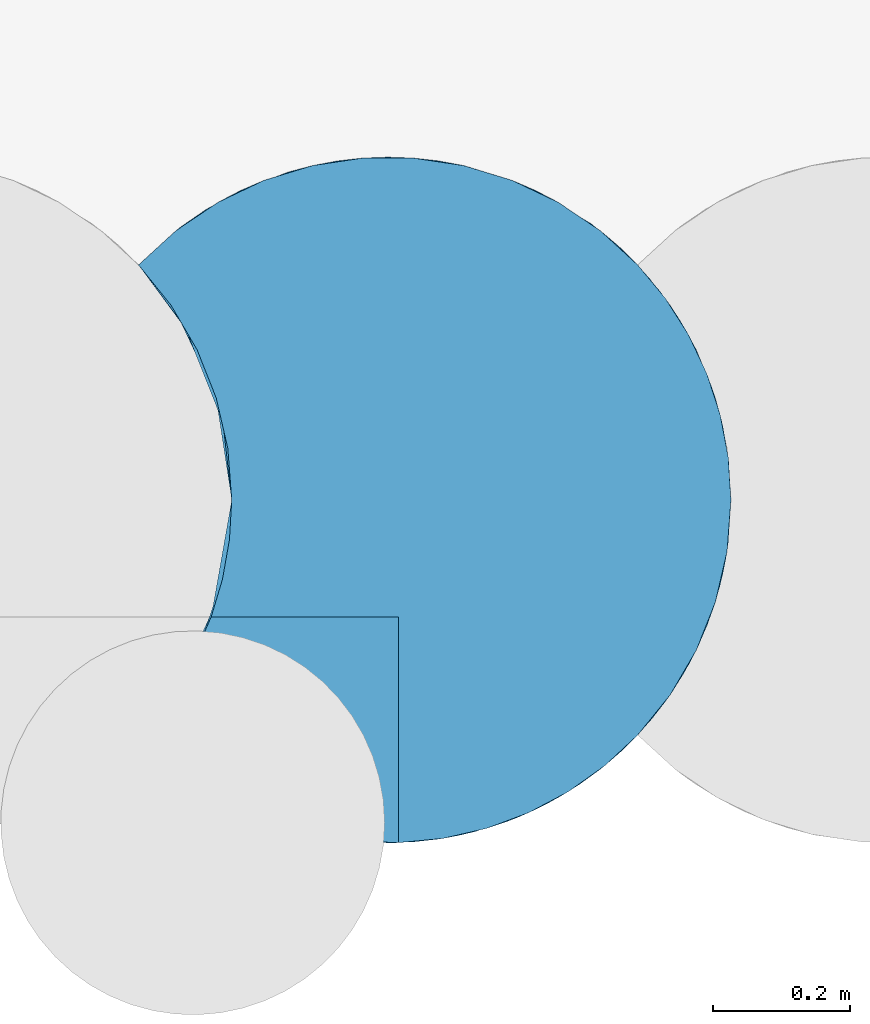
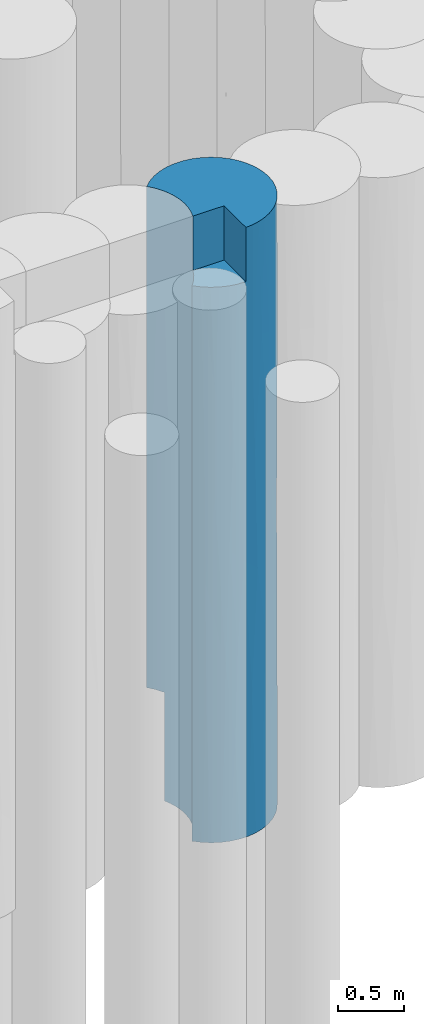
# One storey, part 49 of 104: 1 pile.
"""IFC2X3 building model written with IfcOpenShell, lengths in millimetres."""

import ifcopenshell
import ifcopenshell.guid

model = None  # the IFC model being written
_history = None  # IfcOwnerHistory: only IFC2X3 demands one
_inside = {}  # id of a spatial element -> (the spatial element, [elements in it])
_under = {}  # id of a project, library or spatial element -> (it, [spatial elements below it])
_declared = {}  # id of a project -> (the project, [libraries it declares])
_typed = {}  # id of a type object -> (the type object, [elements of that type])
_made_of = {}  # id of a material, layer set ... -> (it, [elements and type objects made of it])


def new_model(schema):
    """Start an empty IFC model of exactly this schema.

    Asked for "IFC4X3", IfcOpenShell would pick the latest addendum, in which some entities
    have other attributes; the version numbers below select the first issue.
    IFC2X3 requires an IfcOwnerHistory on every rooted entity: one is made here for all.
    """
    global model, _history
    if schema == "IFC4X3":
        model = ifcopenshell.file(schema_version=(4, 3, 0, 0))
    else:
        model = ifcopenshell.file(schema=schema)
    _inside.clear()
    _under.clear()
    _declared.clear()
    _typed.clear()
    _made_of.clear()
    _history = None
    if model.schema == "IFC2X3":
        org = make("IfcOrganization", Name="unknown")
        user = make(
            "IfcPersonAndOrganization",
            ThePerson=make("IfcPerson", FamilyName="unknown"),
            TheOrganization=org,
        )
        app = make(
            "IfcApplication",
            ApplicationDeveloper=org,
            Version="unknown",
            ApplicationFullName="unknown",
            ApplicationIdentifier="unknown",
        )
        _history = make(
            "IfcOwnerHistory",
            OwningUser=user,
            OwningApplication=app,
            ChangeAction="ADDED",
            CreationDate=0,
        )
    return model


def make(cls, **values):
    """One entity of the class cls with the attributes given. An attribute that is None is left unset."""
    return model.create_entity(
        cls, **{name: value for name, value in values.items() if value is not None}
    )


def entity(cls, *values):
    """Any entity or typed value of the class cls, its attributes in the order of the schema. None: left unset."""
    e = model.create_entity(cls)
    for i, value in enumerate(values):
        if value is not None:
            e[i] = value
    return e


def rooted(cls, **values):
    """An entity with a GlobalId (a new one), such as an element, a storey or a relation."""
    return make(cls, GlobalId=ifcopenshell.guid.new(), OwnerHistory=_history, **values)


def si_unit(unit_type, name, prefix=None):
    """IfcSIUnit, for example si_unit("LENGTHUNIT", "METRE", prefix="MILLI")."""
    return make("IfcSIUnit", UnitType=unit_type, Prefix=prefix, Name=name)


def converted_unit(unit_type, name, factor, base, dimensions=None, offset=None):
    """IfcConversionBasedUnit, such as the inch: factor (a typed value) times the base unit."""
    return make(
        "IfcConversionBasedUnit"
        if offset is None
        else "IfcConversionBasedUnitWithOffset",
        ConversionOffset=offset,
        Dimensions=None
        if dimensions is None
        else entity("IfcDimensionalExponents", *dimensions),
        UnitType=unit_type,
        Name=name,
        ConversionFactor=make(
            "IfcMeasureWithUnit", ValueComponent=factor, UnitComponent=base
        ),
    )


def derived_unit(unit_type, elements):
    """IfcDerivedUnit: a product of units, each with its exponent."""
    return make(
        "IfcDerivedUnit",
        Elements=[
            make("IfcDerivedUnitElement", Unit=unit, Exponent=power)
            for unit, power in elements
        ],
        UnitType=unit_type,
    )


def assignment(units):
    """IfcUnitAssignment: the units of a project."""
    return None if units is None else make("IfcUnitAssignment", Units=units)


def point(xyz):
    """IfcCartesianPoint."""
    return None if xyz is None else make("IfcCartesianPoint", Coordinates=xyz)


def direction(xyz):
    """IfcDirection."""
    return None if xyz is None else make("IfcDirection", DirectionRatios=xyz)


def frame(location, z_axis=None, x_axis=None):
    """IfcAxis2Placement3D, a coordinate frame: its origin and axes. An axis left out is left unset."""
    return make(
        "IfcAxis2Placement3D",
        Location=point(location),
        Axis=direction(z_axis),
        RefDirection=direction(x_axis),
    )


def origin():
    """The frame at (0, 0, 0) with its axes left unset."""
    return frame((0.0, 0.0, 0.0))


def place(relative_to, where):
    """IfcLocalPlacement: puts the frame where relative to a parent placement (None: the world)."""
    return make(
        "IfcLocalPlacement", PlacementRelTo=relative_to, RelativePlacement=where
    )


def context(
    kind, dimensions, precision=None, world=None, true_north=None, identifier=None
):
    """IfcGeometricRepresentationContext, for example the 3D "Model" context."""
    return make(
        "IfcGeometricRepresentationContext",
        ContextIdentifier=identifier,
        ContextType=kind,
        CoordinateSpaceDimension=dimensions,
        Precision=precision,
        WorldCoordinateSystem=world,
        TrueNorth=true_north,
    )


def subcontext(parent, identifier, kind, view, scale=None):
    """IfcGeometricRepresentationSubContext, for example "Body" below "Model"."""
    return make(
        "IfcGeometricRepresentationSubContext",
        ContextIdentifier=identifier,
        ContextType=kind,
        ParentContext=parent,
        TargetScale=scale,
        TargetView=view,
    )


def project(units=None, contexts=None):
    """IfcProject with its units and contexts."""
    return rooted(
        "IfcProject",
        Name="project",
        RepresentationContexts=contexts,
        UnitsInContext=assignment(units),
    )


def spatial(cls, under=None, at=None, **own):
    """A site, building, storey or space (cls), placed at a placement, below another one or the project."""
    s = rooted(cls, ObjectPlacement=at, **own)
    if under is not None:
        _under.setdefault(under.id(), (under, []))[1].append(s)
    return s


def faces_of(points, faces, orient=None, outer=None):
    """IfcFace entities. A face is a list of loops; a loop is a list of indices into points, from 0.

    orient and outer hold one flag for each loop. By default every Orientation is true, the
    first loop of a face is its IfcFaceOuterBound and the others are IfcFaceBound.
    """
    made = []
    for i, loops in enumerate(faces):
        bounds = []
        for j, loop in enumerate(loops):
            is_outer = j == 0 if outer is None else outer[i][j]
            bounds.append(
                make(
                    "IfcFaceOuterBound" if is_outer else "IfcFaceBound",
                    Bound=make("IfcPolyLoop", Polygon=[points[k] for k in loop]),
                    Orientation=True if orient is None else orient[i][j],
                )
            )
        made.append(make("IfcFace", Bounds=bounds))
    return made


def faceted_brep(points, faces, orient=None, outer=None, voids=None):
    """IfcFacetedBrep: a solid bounded by flat faces; with voids (closed shells), ...WithVoids."""
    shared = [point(p) for p in points]
    hull = make("IfcClosedShell", CfsFaces=faces_of(shared, faces, orient, outer))
    if voids is None:
        return make("IfcFacetedBrep", Outer=hull)
    return make(
        "IfcFacetedBrepWithVoids",
        Outer=hull,
        Voids=[
            make(cls, CfsFaces=faces_of(shared, fs, o, b)) for cls, fs, o, b in voids
        ],
    )


def shape(context_of_items, identifier, shape_type, items):
    """IfcShapeRepresentation: the items that make up one representation, for example the "Body"."""
    return make(
        "IfcShapeRepresentation",
        ContextOfItems=context_of_items,
        RepresentationIdentifier=identifier,
        RepresentationType=shape_type,
        Items=items,
    )


def source(mapping_origin, context_of_items, identifier, shape_type, items):
    """IfcRepresentationMap: a shape defined once, which mapped items show again and again."""
    return make(
        "IfcRepresentationMap",
        MappingOrigin=mapping_origin,
        MappedRepresentation=shape(context_of_items, identifier, shape_type, items),
    )


def transform(
    local_origin,
    x_axis=None,
    y_axis=None,
    z_axis=None,
    scale=None,
    scale2=None,
    scale3=None,
    uniform=True,
):
    """IfcCartesianTransformationOperator3D, or its non-uniform kind. x_axis, y_axis, z_axis: its Axis1, 2, 3."""
    if uniform:
        return make(
            "IfcCartesianTransformationOperator3D",
            Axis1=direction(x_axis),
            Axis2=direction(y_axis),
            LocalOrigin=point(local_origin),
            Scale=scale,
            Axis3=direction(z_axis),
        )
    return make(
        "IfcCartesianTransformationOperator3DnonUniform",
        Axis1=direction(x_axis),
        Axis2=direction(y_axis),
        LocalOrigin=point(local_origin),
        Scale=scale,
        Axis3=direction(z_axis),
        Scale2=scale2,
        Scale3=scale3,
    )


def mapped(mapping_source, mapping_target):
    """IfcMappedItem: shows the shape of a source again, moved by a transform."""
    return make(
        "IfcMappedItem", MappingSource=mapping_source, MappingTarget=mapping_target
    )


def material(Name=None, Category=None):
    """IfcMaterial."""
    return make("IfcMaterial", Name=Name, Category=Category)


def made_of(thing, what):
    """Note that an element or type object is made of a material, layer set ...; save() writes the relation."""
    if what is not None:
        _made_of.setdefault(what.id(), (what, []))[1].append(thing)
    return thing


def element(
    cls,
    number,
    at=None,
    inside=None,
    cuts=None,
    type_object=None,
    material=None,
    context=None,
    identifier="Body",
    shape_type=None,
    held_by="IfcProductDefinitionShape",
    body=None,
    shapes=None,
    **own,
):
    """One element of the class cls, such as IfcWall. Its Tag is "e" and its number.

    at: its placement. inside: the storey or other place that contains it. cuts: it is an
    opening in that element (IfcRelVoidsElement). A single representation is given by context,
    identifier, shape_type and body (its items); several are given by shapes. held_by: the class
    of the entity that holds the representations. save() writes the other relations.
    """
    e = rooted(cls, Tag="e%d" % number, ObjectPlacement=at, **own)
    if body is not None:
        shapes = [shape(context, identifier, shape_type, body)]
    if shapes is not None:
        e.Representation = make(held_by, Representations=shapes)
    if inside is not None:
        _inside.setdefault(inside.id(), (inside, []))[1].append(e)
    if cuts is not None:
        rooted(
            "IfcRelVoidsElement", RelatingBuildingElement=cuts, RelatedOpeningElement=e
        )
    if type_object is not None:
        _typed.setdefault(type_object.id(), (type_object, []))[1].append(e)
    return made_of(e, material)


def aggregate(whole, parts):
    """IfcRelAggregates: a whole, such as a stair, and the parts it consists of."""
    return rooted("IfcRelAggregates", RelatingObject=whole, RelatedObjects=parts)


def save(model, path):
    """Write the relations noted so far, then the file.

    IfcRelAggregates (storeys below a building ...), IfcRelContainedInSpatialStructure (elements
    in a storey), IfcRelDefinesByType, IfcRelAssociatesMaterial and IfcRelDeclares: one each for
    every whole, place, type object, material and project.
    """
    for whole, parts in _under.values():
        aggregate(whole, parts)
    for where, things in _inside.values():
        rooted(
            "IfcRelContainedInSpatialStructure",
            RelatedElements=things,
            RelatingStructure=where,
        )
    for kind, things in _typed.values():
        rooted("IfcRelDefinesByType", RelatedObjects=things, RelatingType=kind)
    for what, things in _made_of.values():
        rooted("IfcRelAssociatesMaterial", RelatedObjects=things, RelatingMaterial=what)
    for by, libraries in _declared.values():
        rooted("IfcRelDeclares", RelatingContext=by, RelatedDefinitions=libraries)
    model.write(path)


model = new_model("IFC2X3")

# Units and contexts
model_context = context("Model", 3, precision=0.01, world=origin(), true_north=direction((6.12303176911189e-17, 1.0)))
body_context = subcontext(model_context, "Body", "Model", "MODEL_VIEW")
ifc_project = project(units=[si_unit("LENGTHUNIT", "METRE", prefix="MILLI"), si_unit("AREAUNIT", "SQUARE_METRE", prefix="MILLI"), si_unit("VOLUMEUNIT", "CUBIC_METRE"), converted_unit("PLANEANGLEUNIT", "DEGREE", entity("IfcRatioMeasure", 0.0174532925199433), si_unit("PLANEANGLEUNIT", "RADIAN"), dimensions=[0, 0, 0, 0, 0, 0, 0]), si_unit("MASSUNIT", "GRAM", prefix="KILO"), derived_unit("MASSDENSITYUNIT", [(si_unit("MASSUNIT", "GRAM", prefix="KILO"), 1), (si_unit("LENGTHUNIT", "METRE"), -3)]), derived_unit("MOMENTOFINERTIAUNIT", [(si_unit("LENGTHUNIT", "METRE"), 4)]), si_unit("TIMEUNIT", "SECOND"), si_unit("FREQUENCYUNIT", "HERTZ"), si_unit("THERMODYNAMICTEMPERATUREUNIT", "DEGREE_CELSIUS"), derived_unit("THERMALTRANSMITTANCEUNIT", [(si_unit("MASSUNIT", "GRAM", prefix="KILO"), 1), (si_unit("THERMODYNAMICTEMPERATUREUNIT", "KELVIN"), -1), (si_unit("TIMEUNIT", "SECOND"), -3)]), derived_unit("VOLUMETRICFLOWRATEUNIT", [(si_unit("LENGTHUNIT", "METRE"), 3), (si_unit("TIMEUNIT", "SECOND"), -1)]), si_unit("ELECTRICCURRENTUNIT", "AMPERE"), si_unit("ELECTRICVOLTAGEUNIT", "VOLT"), si_unit("POWERUNIT", "WATT"), si_unit("FORCEUNIT", "NEWTON", prefix="KILO"), si_unit("ILLUMINANCEUNIT", "LUX"), si_unit("LUMINOUSFLUXUNIT", "LUMEN"), si_unit("LUMINOUSINTENSITYUNIT", "CANDELA"), derived_unit("USERDEFINED", [(si_unit("MASSUNIT", "GRAM", prefix="KILO"), -1), (si_unit("LENGTHUNIT", "METRE"), -2), (si_unit("TIMEUNIT", "SECOND"), 3), (si_unit("LUMINOUSFLUXUNIT", "LUMEN"), 1)]), derived_unit("LINEARVELOCITYUNIT", [(si_unit("LENGTHUNIT", "METRE"), 1), (si_unit("TIMEUNIT", "SECOND"), -1)]), si_unit("PRESSUREUNIT", "PASCAL"), derived_unit("USERDEFINED", [(si_unit("LENGTHUNIT", "METRE"), -2), (si_unit("MASSUNIT", "GRAM", prefix="KILO"), 1), (si_unit("TIMEUNIT", "SECOND"), -2)]), derived_unit("LINEARFORCEUNIT", [(si_unit("MASSUNIT", "GRAM", prefix="KILO"), 1), (si_unit("LENGTHUNIT", "METRE"), 1), (si_unit("TIMEUNIT", "SECOND"), -2), (si_unit("LENGTHUNIT", "METRE"), -1)]), derived_unit("PLANARFORCEUNIT", [(si_unit("MASSUNIT", "GRAM", prefix="KILO"), 1), (si_unit("LENGTHUNIT", "METRE"), 1), (si_unit("TIMEUNIT", "SECOND"), -2), (si_unit("LENGTHUNIT", "METRE"), -2)])], contexts=[model_context])

# Site, building, storey
site_placement = place(None, origin())
site = spatial("IfcSite", under=ifc_project, at=site_placement, Name="Theater aan de Parade", CompositionType="ELEMENT")
building_placement = place(site_placement, origin())
building = spatial("IfcBuilding", under=site, at=building_placement, Name="Theater aan de Parade", CompositionType="ELEMENT")
storey_placement = place(building_placement, frame((0.0, 0.0, -5520.0)))
storey = spatial("IfcBuildingStorey", under=building, at=storey_placement, Name="-2 kelder", CompositionType="ELEMENT", Elevation=-5520.0)

# Pile
ifc_material = material(Name="00_PBT_MAT_grout")
shared_shape = source(origin(), body_context, "Body", "Brep", [
    faceted_brep([(852.778565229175, 613.849004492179, 0.0), (862.377155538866, 558.003037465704, 0.0), (865.595272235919, 501.365943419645, 0.0), (861.634305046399, 438.554495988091, 0.0), (849.822713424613, 376.771460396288, 0.0), (830.347523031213, 316.960560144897, 0.0), (803.517959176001, 260.07002496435, 0.0), (769.755868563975, 206.995067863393, 0.0), (729.59474986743, 158.577316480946, 0.0), (674.963193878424, 108.56639013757, 0.0), (613.550146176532, 67.1789094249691, 0.0), (546.698111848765, 35.316845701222, 0.0), (475.873547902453, 13.6788491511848, 0.0), (402.62996177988, 2.73939802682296, 0.0), (328.573875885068, 2.73841087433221, 0.0), (255.329632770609, 13.6759919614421, 0.0), (184.50381007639, 35.3124246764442, 0.0), (117.650023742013, 67.1734126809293, 0.0), (56.2348577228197, 108.560477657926, 0.0), (1.5952722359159, 158.577378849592, 0.0), (49.0404771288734, 217.265884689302, 0.0), (87.1123213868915, 282.426631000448, 0.0), (114.943469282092, 352.575154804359, 0.0), (131.899884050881, 426.113363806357, 0.0), (137.595272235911, 501.365943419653, 0.0), (134.377353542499, 558.001300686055, 0.0), (124.780071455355, 613.84248057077, 0.0), (108.920050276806, 668.257985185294, 0.0), (86.991728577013, 720.552678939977, 0.0), (814.991728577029, 720.552678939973, 0.0), (836.91792516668, 668.263986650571, 0.0), (854.020876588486, 608.325884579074, 1094.02741643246), (814.991728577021, 720.552678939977, 1000.0), (841.026602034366, 656.172437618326, 4762.58295011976), (803.517959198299, 742.661861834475, 5620.0), (830.347522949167, 685.77132690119, 5620.0), (865.595272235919, 501.365943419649, 2810.0), (865.595272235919, 501.365943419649, 1561.53772500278), (851.888657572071, 617.636074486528, 2185.76883482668), (703.210170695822, 870.1696586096, 2200.60581933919), (746.362503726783, 825.428152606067, 3310.00690634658), (803.401066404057, 742.873886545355, 2328.06655431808), (841.026601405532, 656.172439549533, 3857.71264231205), (865.595272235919, 501.365943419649, 4215.0), (865.595272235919, 501.36594341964, 4058.46229407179), (865.595272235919, 501.36594341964, 3123.07541185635), (476.571159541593, 988.894765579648, 4283.64346164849), (580.714838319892, 952.723420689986, 4088.45269383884), (439.453512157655, 995.880817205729, 3309.99801466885), (1.5952722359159, 844.154507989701, 5620.0), (56.2348580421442, 894.171409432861, 5620.0), (63.7853417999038, 900.002075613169, 4676.61157762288), (674.970941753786, 894.159394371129, 1000.0), (729.595272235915, 844.154507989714, 1000.0), (769.755868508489, 795.736819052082, 5620.0), (787.472388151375, 769.730805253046, 4395.38615293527), (328.567290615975, 999.992986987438, 1000.0), (291.740779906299, 995.881376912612, 2360.44460435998), (439.453512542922, 995.88081714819, 2129.89388414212), (580.720158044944, 952.720885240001, 2525.44905794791), (613.556610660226, 935.549285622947, 1000.0), (729.584965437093, 844.16545223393, 5620.0), (861.634305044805, 564.177390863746, 5620.0), (150.473767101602, 952.722496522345, 2319.63983707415), (117.637172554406, 935.551135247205, 1000.0), (65.20174308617, 901.070493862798, 1974.73221121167), (841.063509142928, 656.059045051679, 2981.48445914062), (865.595272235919, 501.365943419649, 5620.0), (849.822713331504, 625.960426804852, 5620.0), (790.702617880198, 764.583998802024, 1000.0), (762.16743818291, 805.882802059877, 1000.0), (100.386739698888, 925.234359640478, 3418.67983370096), (1.5952722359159, 844.154507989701, 2561.53489296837), (1.5952722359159, 844.154507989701, 4123.06978593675), (806.389759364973, 737.374884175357, 3307.45861235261), (699.528820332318, 873.506220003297, 4401.38648641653), (546.702158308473, 967.413468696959, 1000.0), (475.874328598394, 989.052861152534, 1000.0), (56.222500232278, 894.161676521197, 1000.0), (674.963193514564, 894.165496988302, 5620.0), (328.123378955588, 999.959823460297, 3417.58259392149), (402.627039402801, 999.99270585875, 1000.0), (613.550145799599, 935.552977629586, 5620.0), (184.49189348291, 967.414831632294, 1000.0), (255.319907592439, 989.053695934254, 1000.0), (219.515588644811, 979.550767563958, 3586.41160869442), (256.001465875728, 989.207308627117, 4554.82452433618), (1.5952722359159, 844.154507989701, 1000.0), (150.486217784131, 952.728430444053, 4517.6592504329), (661.854395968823, 904.144457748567, 3156.01166058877), (117.650024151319, 935.558474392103, 5620.0), (365.601936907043, 1001.36594337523, 4389.6941936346), (546.698111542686, 967.415041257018, 5620.0), (402.629961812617, 999.992488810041, 5620.0), (475.873547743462, 989.053037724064, 5620.0), (328.573876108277, 999.993475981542, 5620.0), (184.503810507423, 967.419462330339, 5620.0), (255.329633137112, 989.055894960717, 5620.0), (86.1751177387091, 86.7282976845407, 1230.86338668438), (853.693471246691, 392.921726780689, 1833.25363264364), (841.026602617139, 346.559451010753, 891.155981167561), (1.5952722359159, 158.577378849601, 998.460514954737), (275.507514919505, 9.5487050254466, 3737.60684658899), (142.255230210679, 54.0190694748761, 4164.53021981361), (142.255230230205, 54.0190694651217, 3155.69943985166), (291.748976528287, 6.84928585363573, 915.785504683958), (111.311826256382, 70.8547018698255, 5120.0), (53.36044766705, 110.841406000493, 5120.0), (439.454566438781, 6.85122709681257, 1343.48681508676), (859.899216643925, 426.108980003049, 5620.0), (852.809719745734, 389.017903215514, 4639.26173858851), (241.099662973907, 17.1130722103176, 5120.0), (374.058026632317, 1.43756676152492, 3728.03804747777), (467.929995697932, 11.9503691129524, 3458.26282760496), (443.472692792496, 7.46807202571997, 4374.41771596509), (509.531445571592, 22.5315482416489, 5620.0), (445.833395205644, 7.84609212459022, 5620.0), (205.272040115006, 27.766469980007, 801.248683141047), (219.515588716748, 23.1811192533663, 1616.3098798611), (79.2525200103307, 91.4783634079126, 2387.30901220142), (556.472528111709, 39.2340648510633, 923.460004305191), (73.9332644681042, 95.2461664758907, 3660.11482969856), (1.5952722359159, 158.577378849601, 3558.460514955), (857.53189368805, 411.932390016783, 3590.76885291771), (1.5952722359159, 158.577378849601, 5120.0), (805.355547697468, 263.435491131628, 833.540365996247), (817.828225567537, 288.092982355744, 1628.23914067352), (1.5952722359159, 158.577378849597, 780.768853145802), (174.307234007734, 39.4039466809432, 5120.0), (380.73714215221, 1.5952722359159, 5120.0), (380.73714215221, 1.5952722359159, 5620.0), (313.348543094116, 4.10315646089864, 1791.6972504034), (540.525241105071, 32.96493360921, 4570.67645082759), (600.137529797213, 59.7893029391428, 3659.57594421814), (628.501072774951, 76.0654143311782, 5620.0), (629.759279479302, 76.8457704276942, 4520.65704873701), (681.741210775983, 114.000811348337, 5620.0), (310.362605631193, 4.42595454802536, 5120.0), (645.023985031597, 86.7340651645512, 1005.3159451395), (570.770706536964, 45.4020839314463, 5620.0), (580.714839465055, 50.0084666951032, 1819.39859265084), (774.199119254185, 213.194299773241, 2004.68247811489), (750.43296541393, 182.148227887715, 1199.36956665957), (683.324115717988, 115.298097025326, 2064.7343446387), (674.554939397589, 108.245193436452, 3068.09537981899), (706.39590962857, 135.504049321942, 4294.15869610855), (1.5952722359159, 158.577378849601, 2777.69077243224), (245.317089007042, 16.0483580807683, 2681.67976362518), (831.190139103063, 319.098502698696, 2724.86915338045), (780.908120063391, 222.950357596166, 3686.73258150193), (830.34979357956, 316.966282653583, 3864.35693264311), (797.301291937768, 249.116240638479, 4639.26237393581), (365.601937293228, 1.3659434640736, 2550.56375964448), (842.941134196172, 352.567663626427, 5620.0), (729.591649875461, 158.573532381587, 5620.0), (595.553299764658, 57.3847438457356, 2733.80206927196), (493.245717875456, 17.9351172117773, 2432.03859867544), (815.107492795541, 282.416717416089, 5620.0), (777.032670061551, 217.254578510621, 5620.0), (750.432965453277, 182.148227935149, 2809.99538967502), (1.5952722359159, 158.577378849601, 1996.92102990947), (858.303067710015, 416.283464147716, 2698.85784330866), (114.943469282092, 650.156732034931, 5620.0), (131.899884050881, 576.618523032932, 5620.0), (137.595272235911, 501.365943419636, 5620.0), (134.222550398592, 443.388822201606, 5620.0), (124.149885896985, 386.193863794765, 5620.0), (107.513167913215, 330.552678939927, 5620.0), (380.73714215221, 330.552678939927, 5620.0), (49.0404771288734, 785.466002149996, 5620.0), (87.1123213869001, 720.305255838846, 5620.0), (80.1120921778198, 268.602406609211, 5120.0), (44.5887880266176, 210.924420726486, 5120.0), (380.73714215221, 330.552678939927, 5120.0), (107.513167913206, 330.552678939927, 5120.0), (137.595272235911, 501.365943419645, 1561.53772533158), (137.595272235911, 501.365943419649, 2810.0), (118.129955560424, 639.519546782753, 2185.76884068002), (124.811099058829, 613.708001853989, 4657.58649590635), (137.595272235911, 501.365943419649, 4215.0), (125.973811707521, 608.540577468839, 1095.37767137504), (69.3075384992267, 753.604955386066, 4657.58649237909), (102.353272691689, 685.756835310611, 3905.98762480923), (57.7018130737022, 772.494131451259, 3773.13755671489), (86.991728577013, 720.552678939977, 1000.0), (129.79994300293, 589.312302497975, 3749.95709791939), (48.9622639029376, 785.579240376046, 1000.0), (114.521440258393, 651.503980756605, 3074.4744607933), (73.2384738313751, 746.753394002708, 2499.01518659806), (137.595272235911, 501.36594341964, 4058.46229404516), (125.144374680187, 390.479187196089, 2648.70045516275), (94.8629582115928, 299.112974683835, 3193.67103511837), (126.158348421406, 395.035700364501, 3687.84265532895), (60.1293406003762, 234.036631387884, 1836.98523631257), (65.6483038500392, 242.96586190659, 948.913262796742), (130.287474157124, 416.193212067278, 1847.3643039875), (94.8629582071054, 299.112974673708, 4182.01427536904), (102.353273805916, 316.975054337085, 1582.93816074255), (92.4691750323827, 293.785278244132, 2372.54038835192), (128.564853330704, 406.767473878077, 1015.22177140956)], [[[0, 1, 2, 3, 4, 5, 6, 7, 8, 9, 10, 11, 12, 13, 14, 15, 16, 17, 18, 19, 20, 21, 22, 23, 24, 25, 26, 27, 28, 29, 30]], [[31, 30, 32]], [[33, 34, 35]], [[36, 37, 38]], [[39, 40, 41]], [[41, 38, 32]], [[42, 33, 43, 44, 45, 36]], [[46, 47, 48]], [[49, 50, 51]], [[52, 39, 53]], [[54, 34, 55]], [[56, 57, 58]], [[59, 39, 60]], [[48, 47, 59]], [[30, 29, 32]], [[38, 37, 31]], [[54, 55, 61]], [[43, 33, 62]], [[63, 64, 65]], [[66, 36, 38]], [[43, 62, 67]], [[2, 1, 31]], [[68, 33, 35]], [[1, 0, 31]], [[33, 55, 34]], [[69, 70, 41]], [[53, 39, 70]], [[70, 39, 41]], [[71, 72, 73]], [[74, 55, 42]], [[55, 75, 61]], [[76, 77, 58]], [[69, 41, 32]], [[65, 64, 78]], [[75, 79, 61]], [[80, 58, 57]], [[58, 77, 81]], [[40, 74, 41]], [[59, 76, 58]], [[75, 82, 79]], [[83, 63, 84]], [[55, 40, 75]], [[57, 84, 63]], [[80, 85, 86]], [[63, 83, 64]], [[38, 31, 32]], [[63, 85, 57]], [[87, 72, 65]], [[88, 85, 71]], [[39, 89, 40]], [[57, 56, 84]], [[90, 88, 51]], [[89, 39, 59]], [[91, 46, 48]], [[82, 47, 92]], [[47, 46, 92]], [[58, 81, 56]], [[85, 88, 86]], [[93, 94, 46]], [[80, 91, 48]], [[71, 85, 63]], [[93, 91, 95]], [[96, 88, 90]], [[86, 95, 91]], [[55, 33, 42]], [[33, 68, 62]], [[86, 91, 80]], [[90, 51, 50]], [[97, 86, 96]], [[59, 58, 48]], [[71, 63, 65]], [[60, 76, 59]], [[51, 71, 73]], [[60, 39, 52]], [[41, 74, 66]], [[89, 75, 40]], [[82, 75, 47]], [[96, 86, 88]], [[95, 86, 97]], [[31, 37, 2]], [[31, 0, 30]], [[59, 47, 89]], [[75, 89, 47]], [[93, 46, 91]], [[92, 46, 94]], [[58, 80, 48]], [[57, 85, 80]], [[55, 74, 40]], [[66, 74, 42]], [[36, 66, 42]], [[41, 66, 38]], [[87, 65, 78]], [[71, 65, 72]], [[71, 51, 88]], [[49, 51, 73]], [[18, 17, 98]], [[99, 100, 37]], [[101, 18, 98]], [[102, 103, 104]], [[14, 105, 15]], [[103, 106, 107]], [[108, 105, 13]], [[67, 109, 110]], [[102, 111, 103]], [[112, 113, 114]], [[114, 115, 116]], [[117, 105, 118]], [[117, 15, 105]], [[118, 104, 119]], [[3, 100, 4]], [[10, 120, 11]], [[108, 13, 12]], [[121, 107, 122]], [[123, 45, 44]], [[104, 103, 121]], [[122, 107, 124]], [[125, 100, 126]], [[18, 101, 127, 19]], [[128, 106, 103]], [[129, 116, 130]], [[114, 116, 129]], [[3, 2, 37]], [[105, 131, 118]], [[132, 113, 133]], [[134, 135, 136]], [[128, 103, 111]], [[112, 137, 102]], [[10, 138, 120]], [[132, 139, 115]], [[140, 120, 138]], [[126, 141, 142]], [[138, 8, 142]], [[120, 12, 11]], [[125, 7, 6]], [[138, 143, 140]], [[100, 3, 37]], [[144, 145, 133]], [[17, 117, 98]], [[119, 121, 146]], [[131, 147, 118]], [[99, 148, 126]], [[125, 5, 100]], [[149, 150, 151]], [[113, 112, 152]], [[110, 109, 153]], [[136, 145, 154]], [[155, 143, 144]], [[145, 135, 133]], [[139, 132, 135]], [[126, 100, 99]], [[100, 5, 4]], [[133, 135, 132]], [[102, 137, 111]], [[113, 156, 155]], [[145, 151, 154]], [[110, 151, 150]], [[8, 7, 142]], [[152, 147, 131]], [[117, 17, 16]], [[151, 157, 158]], [[159, 141, 148]], [[157, 151, 153]], [[10, 9, 138]], [[160, 98, 119]], [[156, 140, 155]], [[151, 110, 153]], [[125, 6, 5]], [[8, 138, 9]], [[142, 141, 143]], [[154, 151, 158]], [[149, 145, 159]], [[123, 110, 150]], [[110, 44, 43, 67]], [[13, 105, 14]], [[131, 108, 152]], [[113, 132, 114]], [[152, 108, 156]], [[161, 37, 36, 45]], [[148, 99, 161]], [[123, 161, 45]], [[148, 150, 149]], [[142, 143, 138]], [[144, 143, 159]], [[110, 123, 44]], [[148, 123, 150]], [[145, 149, 151]], [[148, 149, 159]], [[148, 161, 123]], [[37, 161, 99]], [[108, 131, 105]], [[147, 152, 102]], [[102, 104, 147]], [[104, 118, 147]], [[126, 142, 125]], [[7, 125, 142]], [[107, 121, 103]], [[121, 119, 104]], [[146, 160, 119]], [[121, 122, 146]], [[118, 119, 98]], [[145, 144, 159]], [[155, 144, 133]], [[113, 155, 133]], [[143, 155, 140]], [[152, 156, 113]], [[108, 140, 156]], [[140, 108, 120]], [[12, 120, 108]], [[98, 117, 118]], [[15, 117, 16]], [[136, 135, 145]], [[139, 135, 134]], [[148, 141, 126]], [[143, 141, 159]], [[98, 160, 101]], [[114, 132, 115]], [[129, 137, 112]], [[129, 112, 114]], [[152, 112, 102]], [[162, 163, 164, 165, 166, 167, 168, 130, 116, 115, 139, 134, 136, 154, 158, 157, 153, 109, 67, 62, 68, 35, 34, 54, 61, 79, 82, 92, 94, 93, 95, 97, 96, 90, 50, 49, 169, 170]], [[171, 172, 124, 107, 106, 128, 111, 137, 129, 173, 174]], [[174, 173, 168, 167]], [[129, 130, 168, 173]], [[175, 176, 177]], [[178, 162, 170]], [[164, 178, 179]], [[24, 180, 25]], [[73, 181, 49]], [[180, 26, 25]], [[180, 27, 26]], [[163, 162, 178]], [[178, 181, 182]], [[181, 73, 183]], [[180, 184, 27]], [[185, 178, 182]], [[72, 87, 186]], [[182, 187, 185]], [[49, 181, 169]], [[175, 177, 180]], [[169, 181, 170]], [[188, 72, 186]], [[179, 178, 185]], [[182, 181, 183]], [[170, 181, 178]], [[188, 187, 183]], [[188, 186, 184]], [[28, 27, 184]], [[185, 176, 189, 179]], [[163, 178, 164]], [[177, 176, 187]], [[185, 187, 176]], [[177, 187, 188]], [[177, 188, 184]], [[183, 73, 72]], [[182, 183, 187]], [[188, 183, 72]], [[184, 180, 177]], [[24, 175, 180]], [[190, 191, 192]], [[127, 193, 194]], [[194, 22, 21]], [[176, 195, 190]], [[172, 122, 124]], [[20, 127, 194]], [[190, 192, 176]], [[172, 196, 122]], [[122, 196, 191, 146]], [[174, 196, 171]], [[197, 22, 194]], [[189, 192, 174]], [[165, 189, 174]], [[198, 193, 146]], [[172, 171, 196]], [[199, 175, 24]], [[174, 166, 165]], [[167, 166, 174]], [[20, 19, 127]], [[174, 192, 196]], [[192, 189, 176]], [[165, 164, 179, 189]], [[193, 127, 101, 160, 146]], [[199, 24, 23]], [[191, 196, 192]], [[199, 23, 22]], [[191, 190, 198]], [[195, 199, 197]], [[20, 194, 21]], [[193, 197, 194]], [[193, 198, 197]], [[197, 198, 190]], [[191, 198, 146]], [[175, 199, 195]], [[197, 199, 22]], [[175, 195, 176]], [[190, 195, 197]], [[84, 56, 81, 77, 76, 60, 52, 53, 70, 69, 32, 184, 186, 87, 78, 64, 83]], [[32, 29, 28, 184]]]),
])
pile_placement = place(storey_placement, frame((39584.2628578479, 37979.4473210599, -3840.0)))
element("IfcPile", 1, at=pile_placement, inside=storey, material=ifc_material, Name="17_PBT_SFO_grondkering_rond:Ø1000 (grondkering)", ObjectType="17_PBT_SFO_grondkering_rond:Ø1000 (grondkering)", PredefinedType="NOTDEFINED", context=body_context, shape_type="MappedRepresentation", body=[
    mapped(shared_shape, transform((0.0, 0.0, 0.0), scale=1.0)),
])

save(model, "model.ifc")
